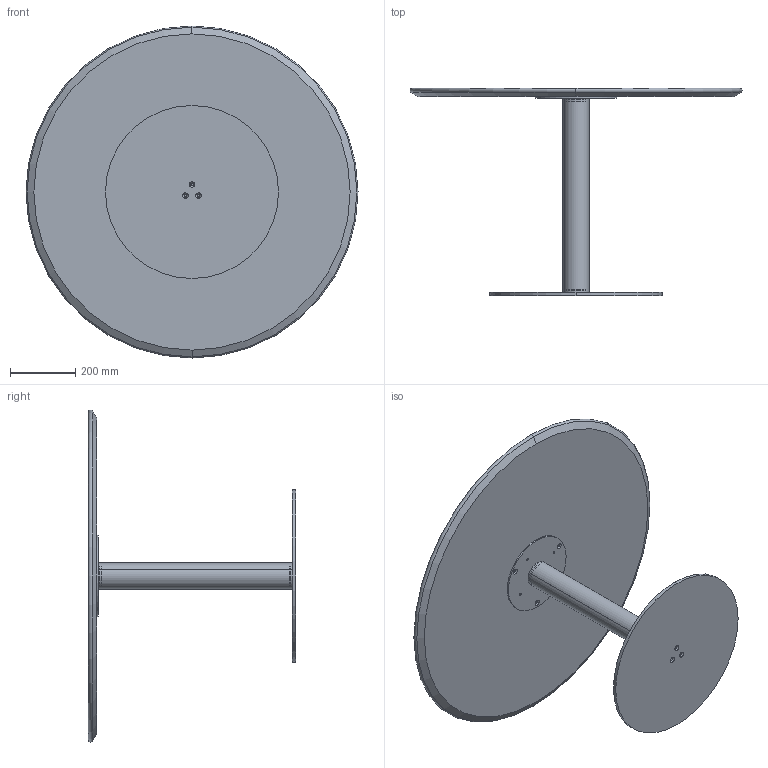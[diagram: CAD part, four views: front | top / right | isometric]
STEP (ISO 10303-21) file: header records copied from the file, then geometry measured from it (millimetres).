
FILE_DESCRIPTION (( 'STEP AP203' ), '1' );
FILE_NAME ('CB35A.STEP', '2024-08-08T09:01:36', ( '' ), ( '' ), 'SwSTEP 2.0', 'SolidWorks 2022', '' );
FILE_SCHEMA (( 'CONFIG_CONTROL_DESIGN' ));
Length unit declared in the file: millimetre
Products named in the file (9): CBS000000BAS-00-BISTRO PIASTRA INFERIORE_D.530; CBS000001COL-00-CILINDRO BISTRO COLONNA H63; CBS200000PST-00-CONTROPIASTRA PER PIASTRA D.25cm GREZZO_250; CB35A; C1XCRMXX-00-piani Rotondi Cristallo_C03 D.100cm; Assieme piani incassatti cristallo_Ø100cm; CBS000001COL_02-00-CILINDRO BISTRO PIASTRA M8; BOMB0001-00-PIANO LEGNO CON INCASSO Ø100_MDF per Ø100cm; CBS000001COL_01-00-CILINDRO BISTRO TUBO H63
Assembly tree (9 placements, depth 3):
  CB35A
    CBS000001COL-00-CILINDRO BISTRO COLONNA H63
      CBS000001COL_01-00-CILINDRO BISTRO TUBO H63
      CBS000001COL_02-00-CILINDRO BISTRO PIASTRA M8  x2
    CBS000000BAS-00-BISTRO PIASTRA INFERIORE_D.530
    CBS200000PST-00-CONTROPIASTRA PER PIASTRA D.25cm GREZZO_250
    Assieme piani incassatti cristallo_Ø100cm
      BOMB0001-00-PIANO LEGNO CON INCASSO Ø100_MDF per Ø100cm
      C1XCRMXX-00-piani Rotondi Cristallo_C03 D.100cm
Bounding box: 1017 x 635 x 1017 mm (x, y, z)
Volume: 25644901.3 mm3; surface area: 4155057.4 mm2
Topology: 7 solids, 7 shells, 107 faces, 248 edges, 156 vertices
Faces by surface type: cylinder 62, cone 28, plane 15, torus 2
Entity records: 3879 total; most frequent: DIRECTION 588, CARTESIAN_POINT 475, ORIENTED_EDGE 448, AXIS2_PLACEMENT_3D 253, EDGE_CURVE 224, CIRCLE 142, EDGE_LOOP 140, VERTEX_POINT 140
